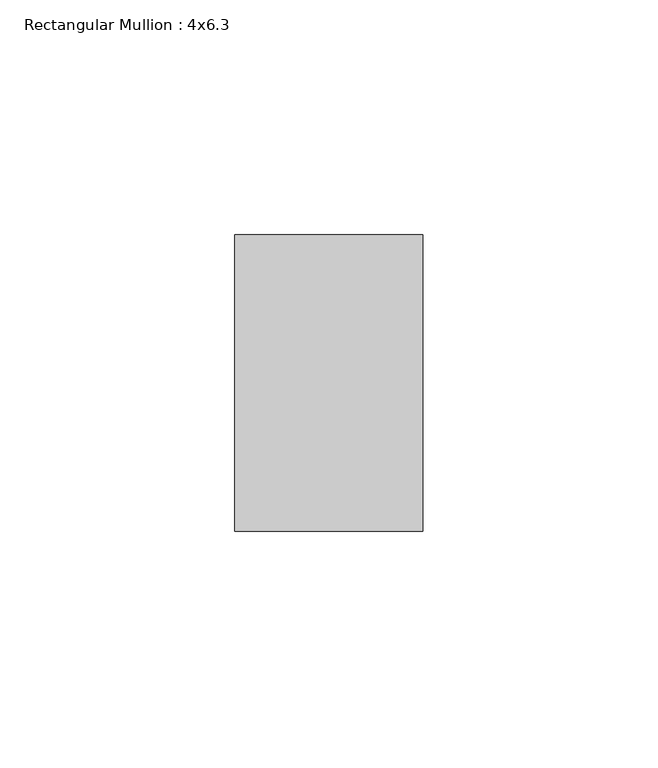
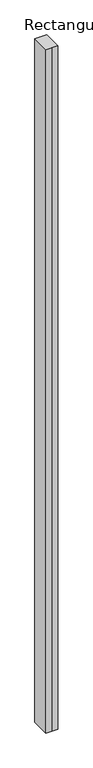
"""IFC4 building model written with IfcOpenShell, lengths in millimetres: member geometry, Rectangular Mullion : 4x6.3."""

import ifcopenshell
import ifcopenshell.guid

model = None  # the IFC model being written
_history = None  # IfcOwnerHistory: only IFC2X3 demands one
_inside = {}  # id of a spatial element -> (the spatial element, [elements in it])
_under = {}  # id of a project, library or spatial element -> (it, [spatial elements below it])
_declared = {}  # id of a project -> (the project, [libraries it declares])
_typed = {}  # id of a type object -> (the type object, [elements of that type])
_made_of = {}  # id of a material, layer set ... -> (it, [elements and type objects made of it])


def new_model(schema):
    """Start an empty IFC model of exactly this schema.

    Asked for "IFC4X3", IfcOpenShell would pick the latest addendum, in which some entities
    have other attributes; the version numbers below select the first issue.
    IFC2X3 requires an IfcOwnerHistory on every rooted entity: one is made here for all.
    """
    global model, _history
    if schema == "IFC4X3":
        model = ifcopenshell.file(schema_version=(4, 3, 0, 0))
    else:
        model = ifcopenshell.file(schema=schema)
    _inside.clear()
    _under.clear()
    _declared.clear()
    _typed.clear()
    _made_of.clear()
    _history = None
    if model.schema == "IFC2X3":
        org = make("IfcOrganization", Name="unknown")
        user = make(
            "IfcPersonAndOrganization",
            ThePerson=make("IfcPerson", FamilyName="unknown"),
            TheOrganization=org,
        )
        app = make(
            "IfcApplication",
            ApplicationDeveloper=org,
            Version="unknown",
            ApplicationFullName="unknown",
            ApplicationIdentifier="unknown",
        )
        _history = make(
            "IfcOwnerHistory",
            OwningUser=user,
            OwningApplication=app,
            ChangeAction="ADDED",
            CreationDate=0,
        )
    return model


def make(cls, **values):
    """One entity of the class cls with the attributes given. An attribute that is None is left unset."""
    return model.create_entity(
        cls, **{name: value for name, value in values.items() if value is not None}
    )


def rooted(cls, **values):
    """An entity with a GlobalId (a new one), such as an element, a storey or a relation."""
    return make(cls, GlobalId=ifcopenshell.guid.new(), OwnerHistory=_history, **values)


def si_unit(unit_type, name, prefix=None):
    """IfcSIUnit, for example si_unit("LENGTHUNIT", "METRE", prefix="MILLI")."""
    return make("IfcSIUnit", UnitType=unit_type, Prefix=prefix, Name=name)


def assignment(units):
    """IfcUnitAssignment: the units of a project."""
    return None if units is None else make("IfcUnitAssignment", Units=units)


def point(xyz):
    """IfcCartesianPoint."""
    return None if xyz is None else make("IfcCartesianPoint", Coordinates=xyz)


def direction(xyz):
    """IfcDirection."""
    return None if xyz is None else make("IfcDirection", DirectionRatios=xyz)


def frame(location, z_axis=None, x_axis=None):
    """IfcAxis2Placement3D, a coordinate frame: its origin and axes. An axis left out is left unset."""
    return make(
        "IfcAxis2Placement3D",
        Location=point(location),
        Axis=direction(z_axis),
        RefDirection=direction(x_axis),
    )


def origin():
    """The frame at (0, 0, 0) with its axes left unset."""
    return frame((0.0, 0.0, 0.0))


def place(relative_to, where):
    """IfcLocalPlacement: puts the frame where relative to a parent placement (None: the world)."""
    return make(
        "IfcLocalPlacement", PlacementRelTo=relative_to, RelativePlacement=where
    )


def context(
    kind, dimensions, precision=None, world=None, true_north=None, identifier=None
):
    """IfcGeometricRepresentationContext, for example the 3D "Model" context."""
    return make(
        "IfcGeometricRepresentationContext",
        ContextIdentifier=identifier,
        ContextType=kind,
        CoordinateSpaceDimension=dimensions,
        Precision=precision,
        WorldCoordinateSystem=world,
        TrueNorth=true_north,
    )


def project(units=None, contexts=None):
    """IfcProject with its units and contexts."""
    return rooted(
        "IfcProject",
        Name="project",
        RepresentationContexts=contexts,
        UnitsInContext=assignment(units),
    )


def spatial(cls, under=None, at=None, **own):
    """A site, building, storey or space (cls), placed at a placement, below another one or the project."""
    s = rooted(cls, ObjectPlacement=at, **own)
    if under is not None:
        _under.setdefault(under.id(), (under, []))[1].append(s)
    return s


def polyline(points):
    """IfcPolyline through the points."""
    return make("IfcPolyline", Points=[point(p) for p in points])


def outline(outer, holes=None, kind="AREA"):
    """IfcArbitraryClosedProfileDef: a profile drawn as a closed curve; with holes, ...WithVoids."""
    if holes is None:
        return make("IfcArbitraryClosedProfileDef", ProfileType=kind, OuterCurve=outer)
    return make(
        "IfcArbitraryProfileDefWithVoids",
        ProfileType=kind,
        OuterCurve=outer,
        InnerCurves=holes,
    )


def extrude(swept, where, along, depth):
    """IfcExtrudedAreaSolid: the profile swept, set in the frame where, extruded along a direction by depth."""
    return make(
        "IfcExtrudedAreaSolid",
        SweptArea=swept,
        Position=where,
        ExtrudedDirection=direction(along),
        Depth=depth,
    )


def shape(context_of_items, identifier, shape_type, items):
    """IfcShapeRepresentation: the items that make up one representation, for example the "Body"."""
    return make(
        "IfcShapeRepresentation",
        ContextOfItems=context_of_items,
        RepresentationIdentifier=identifier,
        RepresentationType=shape_type,
        Items=items,
    )


def source(mapping_origin, context_of_items, identifier, shape_type, items):
    """IfcRepresentationMap: a shape defined once, which mapped items show again and again."""
    return make(
        "IfcRepresentationMap",
        MappingOrigin=mapping_origin,
        MappedRepresentation=shape(context_of_items, identifier, shape_type, items),
    )


def transform(
    local_origin,
    x_axis=None,
    y_axis=None,
    z_axis=None,
    scale=None,
    scale2=None,
    scale3=None,
    uniform=True,
):
    """IfcCartesianTransformationOperator3D, or its non-uniform kind. x_axis, y_axis, z_axis: its Axis1, 2, 3."""
    if uniform:
        return make(
            "IfcCartesianTransformationOperator3D",
            Axis1=direction(x_axis),
            Axis2=direction(y_axis),
            LocalOrigin=point(local_origin),
            Scale=scale,
            Axis3=direction(z_axis),
        )
    return make(
        "IfcCartesianTransformationOperator3DnonUniform",
        Axis1=direction(x_axis),
        Axis2=direction(y_axis),
        LocalOrigin=point(local_origin),
        Scale=scale,
        Axis3=direction(z_axis),
        Scale2=scale2,
        Scale3=scale3,
    )


def mapped(mapping_source, mapping_target):
    """IfcMappedItem: shows the shape of a source again, moved by a transform."""
    return make(
        "IfcMappedItem", MappingSource=mapping_source, MappingTarget=mapping_target
    )


def made_of(thing, what):
    """Note that an element or type object is made of a material, layer set ...; save() writes the relation."""
    if what is not None:
        _made_of.setdefault(what.id(), (what, []))[1].append(thing)
    return thing


def element(
    cls,
    number,
    at=None,
    inside=None,
    cuts=None,
    type_object=None,
    material=None,
    context=None,
    identifier="Body",
    shape_type=None,
    held_by="IfcProductDefinitionShape",
    body=None,
    shapes=None,
    **own,
):
    """One element of the class cls, such as IfcWall. Its Tag is "e" and its number.

    at: its placement. inside: the storey or other place that contains it. cuts: it is an
    opening in that element (IfcRelVoidsElement). A single representation is given by context,
    identifier, shape_type and body (its items); several are given by shapes. held_by: the class
    of the entity that holds the representations. save() writes the other relations.
    """
    e = rooted(cls, Tag="e%d" % number, ObjectPlacement=at, **own)
    if body is not None:
        shapes = [shape(context, identifier, shape_type, body)]
    if shapes is not None:
        e.Representation = make(held_by, Representations=shapes)
    if inside is not None:
        _inside.setdefault(inside.id(), (inside, []))[1].append(e)
    if cuts is not None:
        rooted(
            "IfcRelVoidsElement", RelatingBuildingElement=cuts, RelatedOpeningElement=e
        )
    if type_object is not None:
        _typed.setdefault(type_object.id(), (type_object, []))[1].append(e)
    return made_of(e, material)


def aggregate(whole, parts):
    """IfcRelAggregates: a whole, such as a stair, and the parts it consists of."""
    return rooted("IfcRelAggregates", RelatingObject=whole, RelatedObjects=parts)


def save(model, path):
    """Write the relations noted so far, then the file.

    IfcRelAggregates (storeys below a building ...), IfcRelContainedInSpatialStructure (elements
    in a storey), IfcRelDefinesByType, IfcRelAssociatesMaterial and IfcRelDeclares: one each for
    every whole, place, type object, material and project.
    """
    for whole, parts in _under.values():
        aggregate(whole, parts)
    for where, things in _inside.values():
        rooted(
            "IfcRelContainedInSpatialStructure",
            RelatedElements=things,
            RelatingStructure=where,
        )
    for kind, things in _typed.values():
        rooted("IfcRelDefinesByType", RelatedObjects=things, RelatingType=kind)
    for what, things in _made_of.values():
        rooted("IfcRelAssociatesMaterial", RelatedObjects=things, RelatingMaterial=what)
    for by, libraries in _declared.values():
        rooted("IfcRelDeclares", RelatingContext=by, RelatedDefinitions=libraries)
    model.write(path)


def rectangular_mullion_4x6_3_c70756d1(model_context):
    return source(origin(), model_context, "Body", "SweptSolid", [
        extrude(outline(polyline([(-20.0, 20.0), (-20.0, 83.0), (20.0, 83.0), (20.0, 20.0), (0.0, 20.0), (-20.0, 20.0)])), frame((0.0, 0.0, -2398.4799026), z_axis=(0.0, 0.0, 1.0), x_axis=(1.0, 0.0, 0.0)), (0.0, 0.0, 1.0), 2398.4799026),
    ])


if __name__ == "__main__":
    model = new_model("IFC4")
    model_context = context("Model", 3, world=origin())
    ifc_project = project(units=[si_unit("LENGTHUNIT", "METRE", prefix="MILLI")], contexts=[model_context])
    site = spatial("IfcSite", under=ifc_project)
    building = spatial("IfcBuilding", under=site)
    placement = place(None, origin())
    rectangular_mullion_4x6_3_shape = rectangular_mullion_4x6_3_c70756d1(model_context)
    element("IfcMember", 1, ObjectType="Rectangular Mullion : 4x6.3", at=placement, inside=building, context=model_context, shape_type="MappedRepresentation", body=[
        mapped(rectangular_mullion_4x6_3_shape, transform((0.0, 0.0, 0.0), x_axis=(1.0, 0.0, 0.0), y_axis=(0.0, 1.0, 0.0), z_axis=(0.0, 0.0, 1.0))),
    ])
    save(model, "model.ifc")
